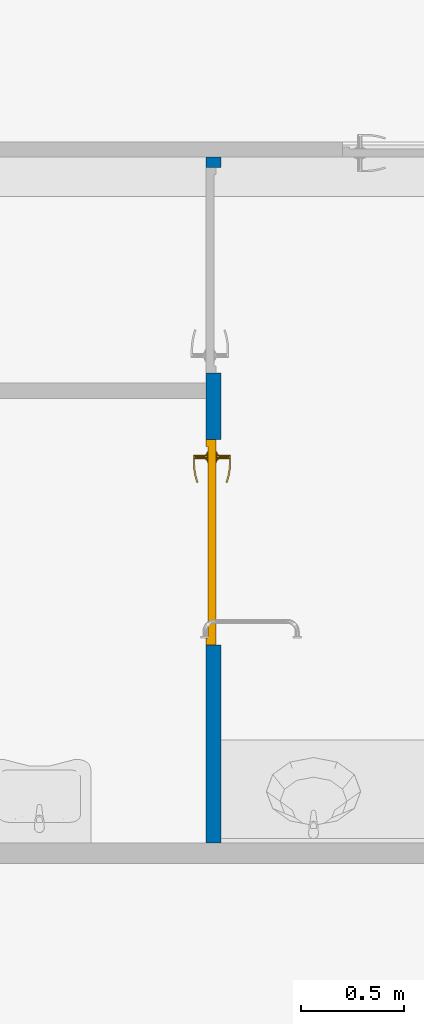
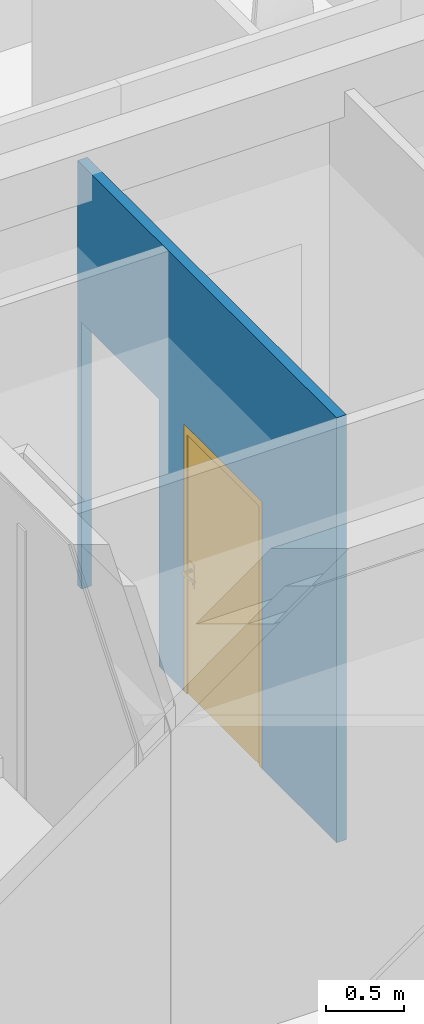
# One storey, part 22 of 91: 1 door, 1 wall, 2 openings.
"""IFC2X3 building model written with IfcOpenShell, lengths in metres."""

from ifc_helpers import new_model, entity, si_unit, converted_unit, derived_unit, money_unit, direction, frame, origin_with_axes, origin_2d_with_axis, place, context, subcontext, project, spatial, polyline, rectangle, outline, extrude, open_shell, faceted_brep, surface_model, source, transform, mapped, material, layer, layer_set, layer_usage, type_object, element, fill, save


model = new_model("IFC2X3")

# Units and contexts
model_context = context("Model", 3, precision=1e-05, world=origin_with_axes(), true_north=direction((0.0, 1.0)))
body_context = subcontext(model_context, "Body", "Model", "MODEL_VIEW")
ifc_project = project(units=[si_unit("LENGTHUNIT", "METRE"), si_unit("AREAUNIT", "SQUARE_METRE"), si_unit("VOLUMEUNIT", "CUBIC_METRE"), converted_unit("PLANEANGLEUNIT", "DEGREE", entity("IfcPlaneAngleMeasure", 0.0174532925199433), si_unit("PLANEANGLEUNIT", "RADIAN"), dimensions=[0, 0, 0, 0, 0, 0, 0]), money_unit("EUR"), converted_unit("TIMEUNIT", "Year", entity("IfcTimeMeasure", 31557600.0), si_unit("TIMEUNIT", "SECOND"), dimensions=[0, 0, 1, 0, 0, 0, 0]), si_unit("MASSUNIT", "GRAM", prefix="KILO"), si_unit("THERMODYNAMICTEMPERATUREUNIT", "DEGREE_CELSIUS"), si_unit("LUMINOUSINTENSITYUNIT", "LUMEN"), si_unit("ENERGYUNIT", "JOULE", prefix="MEGA"), derived_unit("THERMALCONDUCTANCEUNIT", [(si_unit("POWERUNIT", "WATT"), 1), (si_unit("LENGTHUNIT", "METRE"), -1), (si_unit("THERMODYNAMICTEMPERATUREUNIT", "KELVIN"), -1)]), derived_unit("SPECIFICHEATCAPACITYUNIT", [(si_unit("ENERGYUNIT", "JOULE"), 1), (si_unit("MASSUNIT", "GRAM", prefix="KILO"), -1), (si_unit("THERMODYNAMICTEMPERATUREUNIT", "KELVIN"), -1)]), derived_unit("MASSDENSITYUNIT", [(si_unit("MASSUNIT", "GRAM", prefix="KILO"), 1), (si_unit("VOLUMEUNIT", "CUBIC_METRE"), -1)])], contexts=[model_context])

# Site, building, storey
site_placement = place(None, origin_with_axes())
site = spatial("IfcSite", under=ifc_project, at=site_placement, Name="Site", CompositionType="ELEMENT")
building_placement = place(site_placement, origin_with_axes())
building = spatial("IfcBuilding", under=site, at=building_placement, Name="Bâtiment", CompositionType="ELEMENT")
storey_placement = place(building_placement, origin_with_axes())
storey = spatial("IfcBuildingStorey", under=building, at=storey_placement, Name="RDC", CompositionType="ELEMENT", Elevation=0.0)

# Wall, openings, door
ifc_material_1 = material(Name="Finition int - Plaque de plâtre")
ifc_layer_1 = layer(ifc_material_1, 0.013, ventilated="UNKNOWN")
ifc_material_2 = material(Name="Isolation - Laine de verre")
ifc_layer_2 = layer(ifc_material_2, 0.048, ventilated="UNKNOWN")
ifc_layer_3 = layer(ifc_material_1, 0.013, ventilated="UNKNOWN")
ifc_layer_set = layer_set([ifc_layer_1, ifc_layer_2, ifc_layer_3], Name="*Cloison 72")
ifc_layer_usage = layer_usage(ifc_layer_set, "AXIS2", "POSITIVE", 0.0)
wall_type = type_object("IfcWallType", Name="*Cloison 72 74", PredefinedType="NOTDEFINED")
wall_placement = place(storey_placement, frame((40.26300800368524, -20.02867050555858, 0.0), z_axis=(0.0, 0.0, 1.0), x_axis=(0.0, 1.0, 0.0)))
wall = element("IfcWallStandardCase", 1, at=wall_placement, inside=storey, type_object=wall_type, material=ifc_layer_usage, Name="Cloisons ép. 72mm", context=body_context, shape_type="SweptSolid", body=[
    extrude(outline(polyline([(0.0, 0.0), (3.33710813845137, 0.0), (3.33710813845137, 0.07399999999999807), (0.0, 0.07399999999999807), (0.0, 0.0)])), origin_with_axes(), (0.0, 0.0, 1.0), 3.34),
])
opening_1_placement = place(wall_placement, frame((1.463108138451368, 0.0, 0.0), z_axis=(0.0, 0.0, 1.0), x_axis=(1.0, 0.0, 0.0)))
opening_1 = element("IfcOpeningElement", 2, at=opening_1_placement, cuts=wall, Name="Pi.06", context=body_context, shape_type="SweptSolid", body=[
    extrude(rectangle(XDim=1.0, YDim=2.1, at=origin_2d_with_axis()), frame((0.0, -0.07399999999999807, 1.05), z_axis=(0.0, 1.0, 0.0), x_axis=(-1.0, 0.0, 0.0)), (0.0, 0.0, 1.0), 0.222),
])
opening_2_placement = place(wall_placement, frame((2.78671121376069, 0.0, 0.0), z_axis=(0.0, 0.0, 1.0), x_axis=(1.0, 0.0, 0.0)))
element("IfcOpeningElement", 3, at=opening_2_placement, cuts=wall, Name="Pi.06", context=body_context, shape_type="SweptSolid", body=[
    extrude(rectangle(XDim=1.0, YDim=2.1, at=origin_2d_with_axis()), frame((0.0, -0.07399999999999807, 1.05), z_axis=(0.0, 1.0, 0.0), x_axis=(1.0, 0.0, 0.0)), (0.0, 0.0, 1.0), 0.222),
])
door_style = type_object("IfcDoorStyle", Name="Porte 27", ConstructionType="NOTDEFINED", OperationType="SINGLE_SWING_RIGHT", ParameterTakesPrecedence=False, Sizeable=False)
shared_shape = source(origin_with_axes(), body_context, "Body", "SurfaceModel", [
    faceted_brep([(-0.5, 0.0, 0.0), (-0.465, 0.0, 0.0), (-0.465, -0.05, 0.0), (-0.5, -0.05, 0.0), (-0.5, 0.0, 2.04), (-0.465, 0.0, 2.04), (-0.465, -0.05, 2.04), (-0.5, -0.05, 2.04)], [[[0, 1, 2, 3]], [[0, 4, 5, 1]], [[1, 5, 6, 2]], [[3, 2, 6, 7]], [[4, 0, 3, 7]], [[5, 4, 7, 6]]]),
    faceted_brep([(0.5, 0.0, 0.0), (0.5, 0.0, 2.04), (0.5, -0.05, 2.04), (0.5, -0.05, 0.0), (0.465, 0.0, 0.0), (0.465, 0.0, 2.04), (0.465, -0.05, 2.04), (0.465, -0.05, 0.0)], [[[0, 1, 2, 3]], [[0, 4, 5, 1]], [[1, 5, 6, 2]], [[3, 2, 6, 7]], [[4, 0, 3, 7]], [[5, 4, 7, 6]]]),
    faceted_brep([(-0.5, 0.0, 2.1), (-0.5, 0.0, 2.04), (-0.5, -0.05, 2.04), (-0.5, -0.05, 2.1), (0.5, 0.0, 2.1), (0.5, 0.0, 2.04), (0.465, 0.0, 2.04), (-0.465, 0.0, 2.04), (-0.465, -0.05, 2.04), (0.465, -0.05, 2.04), (0.5, -0.05, 2.04), (0.5, -0.05, 2.1)], [[[0, 1, 2, 3]], [[0, 4, 5, 6, 7, 1]], [[1, 7, 8, 2]], [[3, 2, 8, 9, 10, 11]], [[4, 0, 3, 11]], [[5, 4, 11, 10]], [[6, 5, 10, 9]], [[7, 6, 9, 8]]]),
    faceted_brep([(-0.4435, -0.04, 1.06), (-0.4435, -0.043, 1.06), (-0.3865, -0.043, 1.06), (-0.3865, -0.04, 1.06), (-0.4435, -0.04, 0.87), (-0.4435, -0.043, 0.87), (-0.3865, -0.043, 0.87), (-0.3865, -0.04, 0.87)], [[[0, 1, 2, 3]], [[4, 5, 1, 0]], [[1, 5, 6, 2]], [[3, 2, 6, 7]], [[0, 3, 7, 4]], [[7, 6, 5, 4]]]),
    faceted_brep([(-0.4149999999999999, -0.104, 0.99), (-0.4149999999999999, -0.111, 0.99), (-0.4199999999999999, -0.111, 0.9913397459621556), (-0.4199999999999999, -0.104, 0.9913397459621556), (-0.3899999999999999, -0.104, 0.99), (-0.3899999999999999, -0.111, 0.99), (-0.3899999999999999, -0.111, 1.01), (-0.4149999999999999, -0.111, 1.01), (-0.4199999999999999, -0.111, 1.008660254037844), (-0.4236602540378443, -0.111, 1.005), (-0.4249999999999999, -0.111, 1.0), (-0.4236602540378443, -0.111, 0.995), (-0.4236602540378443, -0.104, 0.995), (-0.4249999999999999, -0.104, 1.0), (-0.4236602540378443, -0.104, 1.005), (-0.4199999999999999, -0.104, 1.008660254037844), (-0.4149999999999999, -0.104, 1.01), (-0.3899999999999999, -0.104, 1.01)], [[[0, 1, 2, 3]], [[4, 5, 1, 0]], [[1, 5, 6, 7, 8, 9, 10, 11, 2]], [[3, 2, 11, 12]], [[0, 3, 12, 13, 14, 15, 16, 17, 4]], [[17, 6, 5, 4]], [[16, 7, 6, 17]], [[15, 8, 7, 16]], [[14, 9, 8, 15]], [[13, 10, 9, 14]], [[12, 11, 10, 13]]]),
    surface_model("IfcShellBasedSurfaceModel", [(-0.3899999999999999, -0.104, 1.01), (-0.3765960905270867, -0.111, 1.009607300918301), (-0.3769017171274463, -0.104, 1.009607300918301), (-0.3899999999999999, -0.111, 1.01), (-0.349890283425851, -0.1086635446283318, 1.008821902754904), (-0.3769017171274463, -0.104, 0.9903926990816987), (-0.3899999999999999, -0.104, 0.99), (-0.3899999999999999, -0.111, 0.99), (-0.3765960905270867, -0.111, 0.9903926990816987), (-0.349890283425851, -0.1086635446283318, 0.9911780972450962), (-0.3508048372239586, -0.1017168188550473, 1.008821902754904), (-0.3508048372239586, -0.1017168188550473, 0.9911780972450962), (-0.3234897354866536, -0.104008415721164, 0.9919634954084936), (-0.3234897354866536, -0.104008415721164, 1.008036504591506), (-0.325006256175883, -0.09716783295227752, 1.008036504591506), (-0.325006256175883, -0.09716783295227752, 0.9919634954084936), (-0.2975953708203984, -0.09707004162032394, 0.9927488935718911), (-0.2975953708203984, -0.09707004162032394, 1.007251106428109), (-0.2997023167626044, -0.09038766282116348, 1.007251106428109), (-0.2997023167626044, -0.09038766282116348, 0.9927488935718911), (-0.2895387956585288, -0.09413768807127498, 0.993), (-0.2895387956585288, -0.09413768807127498, 1.007), (-0.2918294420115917, -0.08752217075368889, 1.007), (-0.2918294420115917, -0.08752217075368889, 0.993)], [open_shell([[[0, 1, 2]], [[0, 3, 1]], [[2, 1, 4]], [[0, 2, 5, 6]], [[3, 7, 8, 1]], [[1, 8, 9, 4]], [[2, 4, 10]], [[2, 10, 11, 5]], [[5, 7, 6]], [[5, 8, 7]], [[11, 9, 8]], [[4, 9, 12, 13]], [[10, 4, 13]], [[10, 14, 15, 11]], [[11, 8, 5]], [[15, 9, 11]], [[15, 12, 9]], [[13, 12, 16, 17]], [[10, 13, 14]], [[14, 18, 19, 15]], [[19, 12, 15]], [[19, 16, 12]], [[17, 16, 20, 21]], [[14, 13, 17]], [[14, 17, 18]], [[18, 22, 23, 19]], [[23, 16, 19]], [[23, 20, 16]], [[22, 21, 20, 23]], [[18, 17, 21]], [[18, 21, 22]]])]),
    faceted_brep([(-0.4046076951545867, -0.05300000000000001, 0.994), (-0.4037416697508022, -0.043, 0.9935), (-0.4019999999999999, -0.043, 1.0), (-0.4029999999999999, -0.05300000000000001, 1.0), (-0.4089999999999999, -0.05300000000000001, 0.9896076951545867), (-0.4084999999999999, -0.043, 0.9887416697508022), (-0.4149999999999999, -0.043, 0.987), (-0.4214999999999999, -0.043, 0.9887416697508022), (-0.4262583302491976, -0.043, 0.9934999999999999), (-0.4279999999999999, -0.043, 1.0), (-0.4262583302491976, -0.043, 1.0065), (-0.4214999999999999, -0.043, 1.011258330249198), (-0.4149999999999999, -0.043, 1.013), (-0.4084999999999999, -0.043, 1.011258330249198), (-0.4037416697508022, -0.043, 1.0065), (-0.4046076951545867, -0.05300000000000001, 1.006), (-0.4089999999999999, -0.05300000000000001, 1.010392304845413), (-0.4149999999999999, -0.05300000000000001, 1.012), (-0.4209999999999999, -0.05300000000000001, 1.010392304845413), (-0.4253923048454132, -0.05300000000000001, 1.006), (-0.4269999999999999, -0.05300000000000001, 1.0), (-0.4253923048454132, -0.05300000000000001, 0.994), (-0.4209999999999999, -0.05300000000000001, 0.9896076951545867), (-0.4149999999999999, -0.05300000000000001, 0.988)], [[[0, 1, 2, 3]], [[4, 5, 1, 0]], [[2, 1, 5, 6, 7, 8, 9, 10, 11, 12, 13, 14]], [[3, 2, 14, 15]], [[3, 15, 16, 17, 18, 19, 20, 21, 22, 23, 4, 0]], [[23, 6, 5, 4]], [[22, 7, 6, 23]], [[21, 8, 7, 22]], [[20, 9, 8, 21]], [[19, 10, 9, 20]], [[18, 11, 10, 19]], [[17, 12, 11, 18]], [[16, 13, 12, 17]], [[15, 14, 13, 16]]]),
    faceted_brep([(-0.3976794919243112, -0.04700000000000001, 0.895), (-0.3959474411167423, -0.04300000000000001, 0.894), (-0.3929999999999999, -0.043, 0.905), (-0.3949999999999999, -0.04700000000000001, 0.905), (-0.4049999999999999, -0.04700000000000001, 0.8876794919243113), (-0.4039999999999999, -0.04300000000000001, 0.8859474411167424), (-0.4149999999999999, -0.04300000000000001, 0.883), (-0.4259999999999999, -0.04300000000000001, 0.8859474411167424), (-0.4340525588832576, -0.04300000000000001, 0.894), (-0.4369999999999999, -0.04300000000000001, 0.905), (-0.4340525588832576, -0.04300000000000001, 0.916), (-0.4259999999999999, -0.04300000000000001, 0.9240525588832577), (-0.4149999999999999, -0.043, 0.927), (-0.4039999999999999, -0.043, 0.9240525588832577), (-0.3959474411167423, -0.043, 0.916), (-0.3976794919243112, -0.04700000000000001, 0.915), (-0.4049999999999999, -0.04700000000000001, 0.9223205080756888), (-0.4149999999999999, -0.04700000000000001, 0.925), (-0.4249999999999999, -0.04700000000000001, 0.9223205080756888), (-0.4323205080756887, -0.04700000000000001, 0.915), (-0.4349999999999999, -0.04700000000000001, 0.905), (-0.4323205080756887, -0.04700000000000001, 0.895), (-0.4249999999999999, -0.04700000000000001, 0.8876794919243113), (-0.4149999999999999, -0.04700000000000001, 0.885)], [[[0, 1, 2, 3]], [[4, 5, 1, 0]], [[2, 1, 5, 6, 7, 8, 9, 10, 11, 12, 13, 14]], [[3, 2, 14, 15]], [[3, 15, 16, 17, 18, 19, 20, 21, 22, 23, 4, 0]], [[23, 6, 5, 4]], [[22, 7, 6, 23]], [[21, 8, 7, 22]], [[20, 9, 8, 21]], [[19, 10, 9, 20]], [[18, 11, 10, 19]], [[17, 12, 11, 18]], [[16, 13, 12, 17]], [[15, 14, 13, 16]]]),
    faceted_brep([(-0.4100502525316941, -0.04900000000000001, 0.9090502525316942), (-0.4093431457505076, -0.04700000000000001, 0.9083431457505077), (-0.4069999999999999, -0.04700000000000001, 0.914), (-0.4079999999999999, -0.04900000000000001, 0.914), (-0.4149999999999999, -0.04900000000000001, 0.907), (-0.4149999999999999, -0.04700000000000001, 0.906), (-0.4206568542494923, -0.04700000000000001, 0.9083431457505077), (-0.4229999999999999, -0.04700000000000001, 0.914), (-0.4206568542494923, -0.04700000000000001, 0.9196568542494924), (-0.4149999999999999, -0.04700000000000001, 0.922), (-0.4093431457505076, -0.04700000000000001, 0.9196568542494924), (-0.4100502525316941, -0.04900000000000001, 0.9189497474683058), (-0.4149999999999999, -0.04900000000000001, 0.921), (-0.4199497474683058, -0.04900000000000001, 0.9189497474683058), (-0.4219999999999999, -0.04900000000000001, 0.914), (-0.4199497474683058, -0.04900000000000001, 0.9090502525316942)], [[[0, 1, 2, 3]], [[4, 5, 1, 0]], [[2, 1, 5, 6, 7, 8, 9, 10]], [[3, 2, 10, 11]], [[3, 11, 12, 13, 14, 15, 4, 0]], [[15, 6, 5, 4]], [[14, 7, 6, 15]], [[13, 8, 7, 14]], [[12, 9, 8, 13]], [[11, 10, 9, 12]]]),
    faceted_brep([(-0.4149999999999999, -0.05300000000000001, 1.01), (-0.4149999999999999, -0.104, 1.01), (-0.4099999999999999, -0.104, 1.008660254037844), (-0.4099999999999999, -0.05300000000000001, 1.008660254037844), (-0.4199999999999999, -0.05300000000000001, 1.008660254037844), (-0.4199999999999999, -0.104, 1.008660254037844), (-0.4236602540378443, -0.104, 1.005), (-0.4249999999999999, -0.104, 1.0), (-0.4236602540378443, -0.104, 0.995), (-0.4199999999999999, -0.104, 0.9913397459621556), (-0.4149999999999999, -0.104, 0.99), (-0.4099999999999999, -0.104, 0.9913397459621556), (-0.4063397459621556, -0.104, 0.995), (-0.4049999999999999, -0.104, 1.0), (-0.4063397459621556, -0.104, 1.005), (-0.4063397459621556, -0.05300000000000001, 1.005), (-0.4049999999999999, -0.05300000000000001, 1.0), (-0.4063397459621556, -0.05300000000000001, 0.995), (-0.4099999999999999, -0.05300000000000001, 0.9913397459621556), (-0.4149999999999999, -0.05300000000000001, 0.99), (-0.4199999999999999, -0.05300000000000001, 0.9913397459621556), (-0.4236602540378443, -0.05300000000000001, 0.995), (-0.4249999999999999, -0.05300000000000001, 1.0), (-0.4236602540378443, -0.05300000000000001, 1.005)], [[[0, 1, 2, 3]], [[4, 5, 1, 0]], [[1, 5, 6, 7, 8, 9, 10, 11, 12, 13, 14, 2]], [[3, 2, 14, 15]], [[0, 3, 15, 16, 17, 18, 19, 20, 21, 22, 23, 4]], [[23, 6, 5, 4]], [[22, 7, 6, 23]], [[21, 8, 7, 22]], [[20, 9, 8, 21]], [[19, 10, 9, 20]], [[18, 11, 10, 19]], [[17, 12, 11, 18]], [[16, 13, 12, 17]], [[15, 14, 13, 16]]]),
    faceted_brep([(-0.4434999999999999, 0.0, 1.06), (-0.3864999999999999, 0.0, 1.06), (-0.3864999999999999, 0.002999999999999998, 1.06), (-0.4434999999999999, 0.003000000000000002, 1.06), (-0.4434999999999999, 0.0, 0.87), (-0.3864999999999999, 0.0, 0.87), (-0.3864999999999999, 0.002999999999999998, 0.87), (-0.4434999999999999, 0.003000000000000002, 0.87)], [[[0, 1, 2, 3]], [[0, 4, 5, 1]], [[1, 5, 6, 2]], [[3, 2, 6, 7]], [[4, 0, 3, 7]], [[5, 4, 7, 6]]]),
    faceted_brep([(-0.4149999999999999, 0.064, 0.99), (-0.4199999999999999, 0.064, 0.9913397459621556), (-0.4199999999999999, 0.07100000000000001, 0.9913397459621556), (-0.4149999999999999, 0.07100000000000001, 0.99), (-0.3899999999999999, 0.064, 0.99), (-0.3899999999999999, 0.064, 1.01), (-0.4149999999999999, 0.064, 1.01), (-0.4199999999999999, 0.064, 1.008660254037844), (-0.4236602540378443, 0.064, 1.005), (-0.4249999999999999, 0.064, 1.0), (-0.4236602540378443, 0.064, 0.995), (-0.4236602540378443, 0.07100000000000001, 0.995), (-0.4249999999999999, 0.07100000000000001, 1.0), (-0.4236602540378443, 0.07100000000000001, 1.005), (-0.4199999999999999, 0.07100000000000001, 1.008660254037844), (-0.4149999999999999, 0.07100000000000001, 1.01), (-0.3899999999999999, 0.071, 1.01), (-0.3899999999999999, 0.071, 0.99)], [[[0, 1, 2, 3]], [[0, 4, 5, 6, 7, 8, 9, 10, 1]], [[1, 10, 11, 2]], [[3, 2, 11, 12, 13, 14, 15, 16, 17]], [[4, 0, 3, 17]], [[5, 4, 17, 16]], [[6, 5, 16, 15]], [[7, 6, 15, 14]], [[8, 7, 14, 13]], [[9, 8, 13, 12]], [[10, 9, 12, 11]]]),
    surface_model("IfcShellBasedSurfaceModel", [(-0.3899999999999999, 0.064, 1.01), (-0.3769017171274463, 0.064, 1.009607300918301), (-0.3765960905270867, 0.071, 1.009607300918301), (-0.3899999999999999, 0.064, 0.99), (-0.3769017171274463, 0.064, 0.9903926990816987), (-0.349890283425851, 0.06866354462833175, 1.008821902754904), (-0.3899999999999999, 0.07100000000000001, 1.01), (-0.3899999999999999, 0.07100000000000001, 0.99), (-0.3508048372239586, 0.06171681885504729, 0.9911780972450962), (-0.3508048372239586, 0.06171681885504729, 1.008821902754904), (-0.349890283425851, 0.06866354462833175, 0.9911780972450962), (-0.3765960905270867, 0.071, 0.9903926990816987), (-0.325006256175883, 0.05716783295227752, 0.9919634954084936), (-0.325006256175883, 0.05716783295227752, 1.008036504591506), (-0.3234897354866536, 0.064008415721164, 1.008036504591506), (-0.3234897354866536, 0.064008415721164, 0.9919634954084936), (-0.2997023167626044, 0.05038766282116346, 0.9927488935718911), (-0.2997023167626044, 0.05038766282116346, 1.007251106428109), (-0.2975953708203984, 0.05707004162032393, 1.007251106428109), (-0.2975953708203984, 0.05707004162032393, 0.9927488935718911), (-0.2918294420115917, 0.04752217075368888, 0.993), (-0.2918294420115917, 0.04752217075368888, 1.007), (-0.2895387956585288, 0.05413768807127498, 1.007), (-0.2895387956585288, 0.05413768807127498, 0.993)], [open_shell([[[0, 1, 2]], [[0, 3, 4, 1]], [[1, 5, 2]], [[0, 2, 6]], [[4, 3, 7]], [[1, 4, 8, 9]], [[1, 9, 5]], [[2, 5, 10, 11]], [[6, 2, 11, 7]], [[4, 7, 11]], [[8, 4, 11]], [[9, 8, 12, 13]], [[9, 14, 5]], [[5, 14, 15, 10]], [[8, 11, 10]], [[12, 8, 10]], [[13, 12, 16, 17]], [[9, 13, 14]], [[14, 18, 19, 15]], [[12, 10, 15]], [[16, 12, 15]], [[17, 16, 20, 21]], [[13, 17, 18]], [[13, 18, 14]], [[18, 22, 23, 19]], [[16, 15, 19]], [[20, 16, 19]], [[21, 20, 23, 22]], [[17, 21, 22]], [[17, 22, 18]], [[20, 19, 23]]])]),
    faceted_brep([(-0.4046076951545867, 0.013, 0.994), (-0.4029999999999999, 0.013, 1.0), (-0.4019999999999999, 0.002999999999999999, 1.0), (-0.4037416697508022, 0.003, 0.9935), (-0.4089999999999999, 0.013, 0.9896076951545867), (-0.4149999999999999, 0.013, 0.988), (-0.4209999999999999, 0.013, 0.9896076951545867), (-0.4253923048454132, 0.013, 0.994), (-0.4269999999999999, 0.013, 1.0), (-0.4253923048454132, 0.013, 1.006), (-0.4209999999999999, 0.013, 1.010392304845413), (-0.4149999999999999, 0.013, 1.012), (-0.4089999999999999, 0.013, 1.010392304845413), (-0.4046076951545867, 0.013, 1.006), (-0.4037416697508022, 0.002999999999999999, 1.0065), (-0.4084999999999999, 0.002999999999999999, 1.011258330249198), (-0.4149999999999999, 0.002999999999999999, 1.013), (-0.4214999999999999, 0.003, 1.011258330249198), (-0.4262583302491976, 0.003, 1.0065), (-0.4279999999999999, 0.003000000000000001, 1.0), (-0.4262583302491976, 0.003000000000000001, 0.9934999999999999), (-0.4214999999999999, 0.003000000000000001, 0.9887416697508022), (-0.4149999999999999, 0.003000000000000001, 0.987), (-0.4084999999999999, 0.003, 0.9887416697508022)], [[[0, 1, 2, 3]], [[1, 0, 4, 5, 6, 7, 8, 9, 10, 11, 12, 13]], [[1, 13, 14, 2]], [[2, 14, 15, 16, 17, 18, 19, 20, 21, 22, 23, 3]], [[4, 0, 3, 23]], [[5, 4, 23, 22]], [[6, 5, 22, 21]], [[7, 6, 21, 20]], [[8, 7, 20, 19]], [[9, 8, 19, 18]], [[10, 9, 18, 17]], [[11, 10, 17, 16]], [[12, 11, 16, 15]], [[13, 12, 15, 14]]]),
    faceted_brep([(-0.3976794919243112, 0.007000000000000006, 0.895), (-0.3949999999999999, 0.007000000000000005, 0.905), (-0.3929999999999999, 0.003000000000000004, 0.905), (-0.3959474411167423, 0.003000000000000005, 0.894), (-0.4049999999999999, 0.007000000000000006, 0.8876794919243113), (-0.4149999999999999, 0.007000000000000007, 0.885), (-0.4249999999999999, 0.007000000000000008, 0.8876794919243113), (-0.4323205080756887, 0.007000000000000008, 0.895), (-0.4349999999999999, 0.007000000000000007, 0.905), (-0.4323205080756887, 0.007000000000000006, 0.915), (-0.4249999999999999, 0.007000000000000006, 0.9223205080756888), (-0.4149999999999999, 0.007000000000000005, 0.925), (-0.4049999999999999, 0.007000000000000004, 0.9223205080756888), (-0.3976794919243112, 0.007000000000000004, 0.915), (-0.3959474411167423, 0.003000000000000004, 0.916), (-0.4039999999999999, 0.003000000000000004, 0.9240525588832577), (-0.4149999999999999, 0.003000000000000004, 0.927), (-0.4259999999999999, 0.003000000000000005, 0.9240525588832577), (-0.4340525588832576, 0.003000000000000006, 0.916), (-0.4369999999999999, 0.003000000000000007, 0.905), (-0.4340525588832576, 0.003000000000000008, 0.894), (-0.4259999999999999, 0.003000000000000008, 0.8859474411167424), (-0.4149999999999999, 0.003000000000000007, 0.883), (-0.4039999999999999, 0.003000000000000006, 0.8859474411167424)], [[[0, 1, 2, 3]], [[1, 0, 4, 5, 6, 7, 8, 9, 10, 11, 12, 13]], [[1, 13, 14, 2]], [[2, 14, 15, 16, 17, 18, 19, 20, 21, 22, 23, 3]], [[4, 0, 3, 23]], [[5, 4, 23, 22]], [[6, 5, 22, 21]], [[7, 6, 21, 20]], [[8, 7, 20, 19]], [[9, 8, 19, 18]], [[10, 9, 18, 17]], [[11, 10, 17, 16]], [[12, 11, 16, 15]], [[13, 12, 15, 14]]]),
    faceted_brep([(-0.4100502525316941, 0.009000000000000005, 0.9090502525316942), (-0.4079999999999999, 0.009000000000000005, 0.914), (-0.4069999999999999, 0.007000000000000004, 0.914), (-0.4093431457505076, 0.007000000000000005, 0.9083431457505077), (-0.4149999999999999, 0.009000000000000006, 0.907), (-0.4199497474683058, 0.009000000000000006, 0.9090502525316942), (-0.4219999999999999, 0.009000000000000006, 0.914), (-0.4199497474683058, 0.009000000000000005, 0.9189497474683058), (-0.4149999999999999, 0.009000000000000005, 0.921), (-0.4100502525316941, 0.009000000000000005, 0.9189497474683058), (-0.4093431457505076, 0.007000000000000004, 0.9196568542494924), (-0.4149999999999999, 0.007000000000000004, 0.922), (-0.4206568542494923, 0.007000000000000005, 0.9196568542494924), (-0.4229999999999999, 0.007000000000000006, 0.914), (-0.4206568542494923, 0.007000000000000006, 0.9083431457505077), (-0.4149999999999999, 0.007000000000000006, 0.906)], [[[0, 1, 2, 3]], [[1, 0, 4, 5, 6, 7, 8, 9]], [[1, 9, 10, 2]], [[2, 10, 11, 12, 13, 14, 15, 3]], [[4, 0, 3, 15]], [[5, 4, 15, 14]], [[6, 5, 14, 13]], [[7, 6, 13, 12]], [[8, 7, 12, 11]], [[9, 8, 11, 10]]]),
    faceted_brep([(-0.4149999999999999, 0.013, 1.01), (-0.4099999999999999, 0.013, 1.008660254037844), (-0.4099999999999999, 0.064, 1.008660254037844), (-0.4149999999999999, 0.064, 1.01), (-0.4199999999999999, 0.013, 1.008660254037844), (-0.4236602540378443, 0.013, 1.005), (-0.4249999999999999, 0.013, 1.0), (-0.4236602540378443, 0.013, 0.995), (-0.4199999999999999, 0.013, 0.9913397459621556), (-0.4149999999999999, 0.013, 0.99), (-0.4099999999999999, 0.013, 0.9913397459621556), (-0.4063397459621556, 0.013, 0.995), (-0.4049999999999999, 0.013, 1.0), (-0.4063397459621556, 0.013, 1.005), (-0.4063397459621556, 0.064, 1.005), (-0.4049999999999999, 0.064, 1.0), (-0.4063397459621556, 0.064, 0.995), (-0.4099999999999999, 0.064, 0.9913397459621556), (-0.4149999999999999, 0.064, 0.99), (-0.4199999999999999, 0.064, 0.9913397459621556), (-0.4236602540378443, 0.064, 0.995), (-0.4249999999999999, 0.064, 1.0), (-0.4236602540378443, 0.064, 1.005), (-0.4199999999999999, 0.064, 1.008660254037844)], [[[0, 1, 2, 3]], [[0, 4, 5, 6, 7, 8, 9, 10, 11, 12, 13, 1]], [[1, 13, 14, 2]], [[3, 2, 14, 15, 16, 17, 18, 19, 20, 21, 22, 23]], [[4, 0, 3, 23]], [[5, 4, 23, 22]], [[6, 5, 22, 21]], [[7, 6, 21, 20]], [[8, 7, 20, 19]], [[9, 8, 19, 18]], [[10, 9, 18, 17]], [[11, 10, 17, 16]], [[12, 11, 16, 15]], [[13, 12, 15, 14]]]),
    faceted_brep([(0.465, 0.0, 0.0), (0.465, -0.04, 0.0), (-0.465, -0.04, 0.0), (-0.465, 0.0, 0.0), (0.465, 0.0, 2.04), (0.465, -0.04000000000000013, 2.04), (-0.465, -0.04000000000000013, 2.04), (-0.465, 0.0, 2.04)], [[[0, 1, 2, 3]], [[4, 5, 1, 0]], [[1, 5, 6, 2]], [[3, 2, 6, 7]], [[0, 3, 7, 4]], [[7, 6, 5, 4]]]),
])
door_placement = place(opening_1_placement, frame((0.5, 0.0, 0.0), z_axis=(0.0, 0.0, 1.0), x_axis=(-1.0, 0.0, 0.0)))
door = element("IfcDoor", 4, at=door_placement, inside=storey, type_object=door_style, Name="Pi.06", OverallHeight=2.1, OverallWidth=1.0, context=body_context, shape_type="MappedRepresentation", body=[
    mapped(shared_shape, transform((0.5, -0.02400000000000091, 0.0))),
])
fill(opening_1, door)

save(model, "model.ifc")
